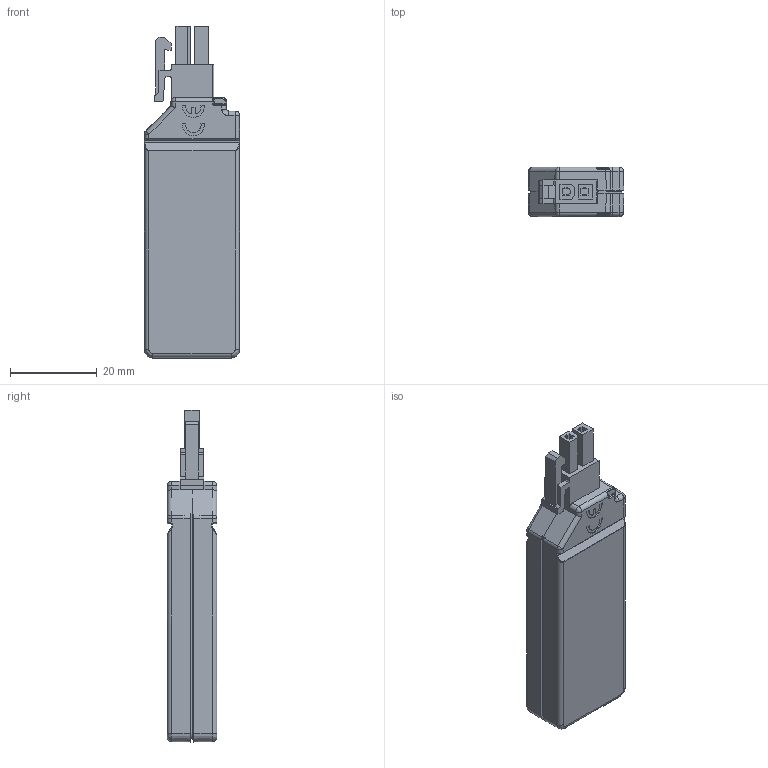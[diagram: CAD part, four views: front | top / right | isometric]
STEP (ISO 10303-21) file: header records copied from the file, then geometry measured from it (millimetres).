
FILE_DESCRIPTION((''),'2;1');
FILE_NAME('1057W4004','2020-10-02T07:10:36',('bs'),(''),'CREO PARAMETRIC BY PTC INC, 2019344','CREO PARAMETRIC BY PTC INC, 2019344','');
FILE_SCHEMA(('AUTOMOTIVE_DESIGN { 1 0 10303 214 1 1 1 1 }'));
Length unit declared in the file: millimetre
Products named in the file (1): 1057W4004
Bounding box: 21.99 x 11.4 x 76.39 mm (x, y, z)
Volume: 14894.6 mm3; surface area: 5426.1 mm2
Topology: 1 solids, 1 shells, 392 faces, 1048 edges, 666 vertices
Faces by surface type: plane 246, cylinder 90, bspline 26, torus 11, sphere 9, extrusion 6, cone 4
Entity records: 14179 total; most frequent: CARTESIAN_POINT 3767, ORIENTED_EDGE 2078, DIRECTION 1870, EDGE_CURVE 1039, VECTOR 770, LINE 764, VERTEX_POINT 666, AXIS2_PLACEMENT_3D 550
